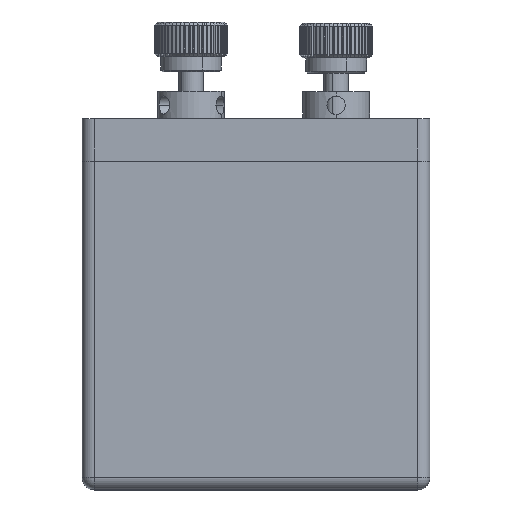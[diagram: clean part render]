
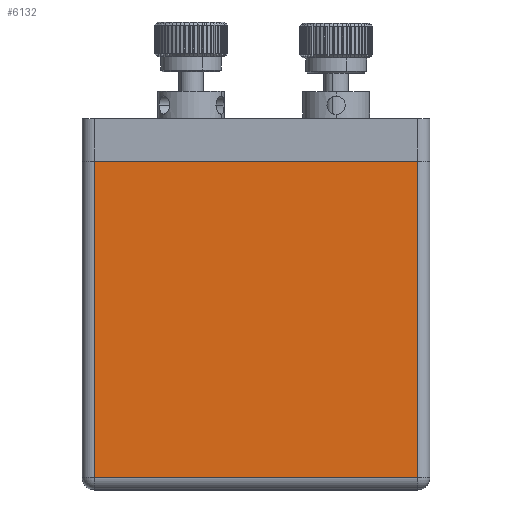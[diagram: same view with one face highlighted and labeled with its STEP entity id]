
A CAD part, top view. The second image highlights one B-rep face of the part: STEP entity #6132.
In plain terms, the highlighted planar face has unit normal (0, 0, 1).
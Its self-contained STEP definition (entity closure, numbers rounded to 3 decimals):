
#1780 = EDGE_CURVE ( 'NONE', #18164, #18160, #7089, .T. ) ;
#1781 = EDGE_CURVE ( 'NONE', #18101, #18160, #7091, .T. ) ;
#1783 = EDGE_CURVE ( 'NONE', #18181, #18101, #7096, .T. ) ;
#1788 = EDGE_CURVE ( 'NONE', #18164, #18181, #7101, .T. ) ;
#4469 = ORIENTED_EDGE ( 'NONE', *, *, #1783, .T. ) ;
#4477 = ORIENTED_EDGE ( 'NONE', *, *, #1780, .F. ) ;
#4479 = ORIENTED_EDGE ( 'NONE', *, *, #1788, .T. ) ;
#4481 = ORIENTED_EDGE ( 'NONE', *, *, #1781, .T. ) ;
#6132 = ADVANCED_FACE ( 'NONE', ( #14934 ), #16238, .F. ) ;
#7089 = LINE ( 'NONE', #9776, #7093 ) ;
#7091 = LINE ( 'NONE', #9775, #7095 ) ;
#7093 = VECTOR ( 'NONE', #9774, 1000. ) ;
#7095 = VECTOR ( 'NONE', #9780, 1000. ) ;
#7096 = LINE ( 'NONE', #9783, #7099 ) ;
#7099 = VECTOR ( 'NONE', #9784, 1000. ) ;
#7101 = LINE ( 'NONE', #9797, #7105 ) ;
#7105 = VECTOR ( 'NONE', #9792, 1000. ) ;
#9774 = DIRECTION ( 'NONE',  ( 1., 0., 0. ) ) ;
#9775 = CARTESIAN_POINT ( 'NONE',  ( 11.659, 46.387, 25.4 ) ) ;
#9776 = CARTESIAN_POINT ( 'NONE',  ( 13.659, 46.387, 25.4 ) ) ;
#9780 = DIRECTION ( 'NONE',  ( 0., 1., 0. ) ) ;
#9783 = CARTESIAN_POINT ( 'NONE',  ( 13.659, -5.613, 25.4 ) ) ;
#9784 = DIRECTION ( 'NONE',  ( 1., 0., 0. ) ) ;
#9792 = DIRECTION ( 'NONE',  ( 0., -1., 0. ) ) ;
#9797 = CARTESIAN_POINT ( 'NONE',  ( -41.541, 46.387, 25.4 ) ) ;
#11215 = AXIS2_PLACEMENT_3D ( 'NONE', #16236, #16241, #16242 ) ;
#14934 = FACE_OUTER_BOUND ( 'NONE', #18249, .T. ) ;
#16236 = CARTESIAN_POINT ( 'NONE',  ( 13.659, 46.387, 25.4 ) ) ;
#16238 = PLANE ( 'NONE',  #11215 ) ;
#16241 = DIRECTION ( 'NONE',  ( 0., 0., -1. ) ) ;
#16242 = DIRECTION ( 'NONE',  ( -1., 0., 0. ) ) ;
#17495 = CARTESIAN_POINT ( 'NONE',  ( 11.659, -5.613, 25.4 ) ) ;
#17547 = CARTESIAN_POINT ( 'NONE',  ( 11.659, 46.387, 25.4 ) ) ;
#17551 = CARTESIAN_POINT ( 'NONE',  ( -41.541, 46.387, 25.4 ) ) ;
#17568 = CARTESIAN_POINT ( 'NONE',  ( -41.541, -5.613, 25.4 ) ) ;
#18101 = VERTEX_POINT ( 'NONE', #17495 ) ;
#18160 = VERTEX_POINT ( 'NONE', #17547 ) ;
#18164 = VERTEX_POINT ( 'NONE', #17551 ) ;
#18181 = VERTEX_POINT ( 'NONE', #17568 ) ;
#18249 = EDGE_LOOP ( 'NONE', ( #4469, #4481, #4477, #4479 ) ) ;
